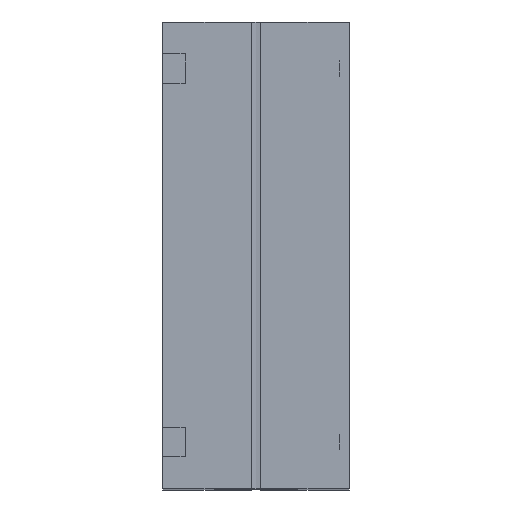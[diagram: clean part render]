
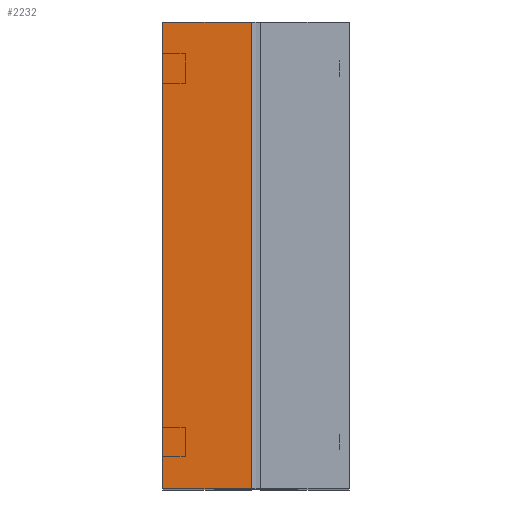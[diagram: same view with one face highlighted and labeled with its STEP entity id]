
A CAD part, top view. The second image highlights one B-rep face of the part: STEP entity #2232.
In plain terms, the highlighted planar face has unit normal (0, 0, 1).
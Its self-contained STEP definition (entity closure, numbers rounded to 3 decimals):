
#73 = PLANE('',#74);
#74 = AXIS2_PLACEMENT_3D('',#75,#76,#77);
#75 = CARTESIAN_POINT('',(0.5,-25.,-39.584));
#76 = DIRECTION('',(0.,1.,0.));
#77 = DIRECTION('',(0.,0.,1.));
#132 = PLANE('',#133);
#133 = AXIS2_PLACEMENT_3D('',#134,#135,#136);
#134 = CARTESIAN_POINT('',(0.5,25.,-39.584));
#135 = DIRECTION('',(0.,1.,0.));
#136 = DIRECTION('',(0.,0.,1.));
#453 = VERTEX_POINT('',#454);
#454 = CARTESIAN_POINT('',(-10.,25.,45.4));
#468 = PLANE('',#469);
#469 = AXIS2_PLACEMENT_3D('',#470,#471,#472);
#470 = CARTESIAN_POINT('',(-10.,25.,-45.4));
#471 = DIRECTION('',(-1.,0.,0.));
#472 = DIRECTION('',(0.,0.,1.));
#480 = EDGE_CURVE('',#453,#481,#483,.T.);
#481 = VERTEX_POINT('',#482);
#482 = CARTESIAN_POINT('',(-0.5,25.,45.4));
#483 = SURFACE_CURVE('',#484,(#488,#495),.PCURVE_S1.);
#484 = LINE('',#485,#486);
#485 = CARTESIAN_POINT('',(-10.,25.,45.4));
#486 = VECTOR('',#487,1.);
#487 = DIRECTION('',(1.,0.,0.));
#488 = PCURVE('',#132,#489);
#489 = DEFINITIONAL_REPRESENTATION('',(#490),#494);
#490 = LINE('',#491,#492);
#491 = CARTESIAN_POINT('',(84.984,-10.5));
#492 = VECTOR('',#493,1.);
#493 = DIRECTION('',(0.,1.));
#494 = ( GEOMETRIC_REPRESENTATION_CONTEXT(2) 
PARAMETRIC_REPRESENTATION_CONTEXT() REPRESENTATION_CONTEXT('2D SPACE',''
  ) );
#495 = PCURVE('',#496,#501);
#496 = PLANE('',#497);
#497 = AXIS2_PLACEMENT_3D('',#498,#499,#500);
#498 = CARTESIAN_POINT('',(-10.,25.,45.4));
#499 = DIRECTION('',(0.,0.,1.));
#500 = DIRECTION('',(1.,0.,0.));
#501 = DEFINITIONAL_REPRESENTATION('',(#502),#506);
#502 = LINE('',#503,#504);
#503 = CARTESIAN_POINT('',(0.,0.));
#504 = VECTOR('',#505,1.);
#505 = DIRECTION('',(1.,0.));
#506 = ( GEOMETRIC_REPRESENTATION_CONTEXT(2) 
PARAMETRIC_REPRESENTATION_CONTEXT() REPRESENTATION_CONTEXT('2D SPACE',''
  ) );
#524 = PLANE('',#525);
#525 = AXIS2_PLACEMENT_3D('',#526,#527,#528);
#526 = CARTESIAN_POINT('',(-0.5,25.,39.584));
#527 = DIRECTION('',(-1.,0.,0.));
#528 = DIRECTION('',(0.,0.,1.));
#818 = VERTEX_POINT('',#819);
#819 = CARTESIAN_POINT('',(-10.,-25.,45.4));
#840 = EDGE_CURVE('',#818,#841,#843,.T.);
#841 = VERTEX_POINT('',#842);
#842 = CARTESIAN_POINT('',(-0.5,-25.,45.4));
#843 = SURFACE_CURVE('',#844,(#848,#855),.PCURVE_S1.);
#844 = LINE('',#845,#846);
#845 = CARTESIAN_POINT('',(-10.,-25.,45.4));
#846 = VECTOR('',#847,1.);
#847 = DIRECTION('',(1.,0.,0.));
#848 = PCURVE('',#73,#849);
#849 = DEFINITIONAL_REPRESENTATION('',(#850),#854);
#850 = LINE('',#851,#852);
#851 = CARTESIAN_POINT('',(84.984,-10.5));
#852 = VECTOR('',#853,1.);
#853 = DIRECTION('',(0.,1.));
#854 = ( GEOMETRIC_REPRESENTATION_CONTEXT(2) 
PARAMETRIC_REPRESENTATION_CONTEXT() REPRESENTATION_CONTEXT('2D SPACE',''
  ) );
#855 = PCURVE('',#496,#856);
#856 = DEFINITIONAL_REPRESENTATION('',(#857),#861);
#857 = LINE('',#858,#859);
#858 = CARTESIAN_POINT('',(0.,-50.));
#859 = VECTOR('',#860,1.);
#860 = DIRECTION('',(1.,0.));
#861 = ( GEOMETRIC_REPRESENTATION_CONTEXT(2) 
PARAMETRIC_REPRESENTATION_CONTEXT() REPRESENTATION_CONTEXT('2D SPACE',''
  ) );
#1391 = EDGE_CURVE('',#453,#818,#1392,.T.);
#1392 = SURFACE_CURVE('',#1393,(#1397,#1404),.PCURVE_S1.);
#1393 = LINE('',#1394,#1395);
#1394 = CARTESIAN_POINT('',(-10.,25.,45.4));
#1395 = VECTOR('',#1396,1.);
#1396 = DIRECTION('',(0.,-1.,0.));
#1397 = PCURVE('',#468,#1398);
#1398 = DEFINITIONAL_REPRESENTATION('',(#1399),#1403);
#1399 = LINE('',#1400,#1401);
#1400 = CARTESIAN_POINT('',(90.8,0.));
#1401 = VECTOR('',#1402,1.);
#1402 = DIRECTION('',(0.,-1.));
#1403 = ( GEOMETRIC_REPRESENTATION_CONTEXT(2) 
PARAMETRIC_REPRESENTATION_CONTEXT() REPRESENTATION_CONTEXT('2D SPACE',''
  ) );
#1404 = PCURVE('',#496,#1405);
#1405 = DEFINITIONAL_REPRESENTATION('',(#1406),#1410);
#1406 = LINE('',#1407,#1408);
#1407 = CARTESIAN_POINT('',(0.,0.));
#1408 = VECTOR('',#1409,1.);
#1409 = DIRECTION('',(0.,-1.));
#1410 = ( GEOMETRIC_REPRESENTATION_CONTEXT(2) 
PARAMETRIC_REPRESENTATION_CONTEXT() REPRESENTATION_CONTEXT('2D SPACE',''
  ) );
#2232 = ADVANCED_FACE('',(#2233),#496,.T.);
#2233 = FACE_BOUND('',#2234,.T.);
#2234 = EDGE_LOOP('',(#2235,#2236,#2237,#2258));
#2235 = ORIENTED_EDGE('',*,*,#1391,.T.);
#2236 = ORIENTED_EDGE('',*,*,#840,.T.);
#2237 = ORIENTED_EDGE('',*,*,#2238,.F.);
#2238 = EDGE_CURVE('',#481,#841,#2239,.T.);
#2239 = SURFACE_CURVE('',#2240,(#2244,#2251),.PCURVE_S1.);
#2240 = LINE('',#2241,#2242);
#2241 = CARTESIAN_POINT('',(-0.5,25.,45.4));
#2242 = VECTOR('',#2243,1.);
#2243 = DIRECTION('',(0.,-1.,0.));
#2244 = PCURVE('',#496,#2245);
#2245 = DEFINITIONAL_REPRESENTATION('',(#2246),#2250);
#2246 = LINE('',#2247,#2248);
#2247 = CARTESIAN_POINT('',(9.5,0.));
#2248 = VECTOR('',#2249,1.);
#2249 = DIRECTION('',(0.,-1.));
#2250 = ( GEOMETRIC_REPRESENTATION_CONTEXT(2) 
PARAMETRIC_REPRESENTATION_CONTEXT() REPRESENTATION_CONTEXT('2D SPACE',''
  ) );
#2251 = PCURVE('',#524,#2252);
#2252 = DEFINITIONAL_REPRESENTATION('',(#2253),#2257);
#2253 = LINE('',#2254,#2255);
#2254 = CARTESIAN_POINT('',(5.816,0.));
#2255 = VECTOR('',#2256,1.);
#2256 = DIRECTION('',(0.,-1.));
#2257 = ( GEOMETRIC_REPRESENTATION_CONTEXT(2) 
PARAMETRIC_REPRESENTATION_CONTEXT() REPRESENTATION_CONTEXT('2D SPACE',''
  ) );
#2258 = ORIENTED_EDGE('',*,*,#480,.F.);
